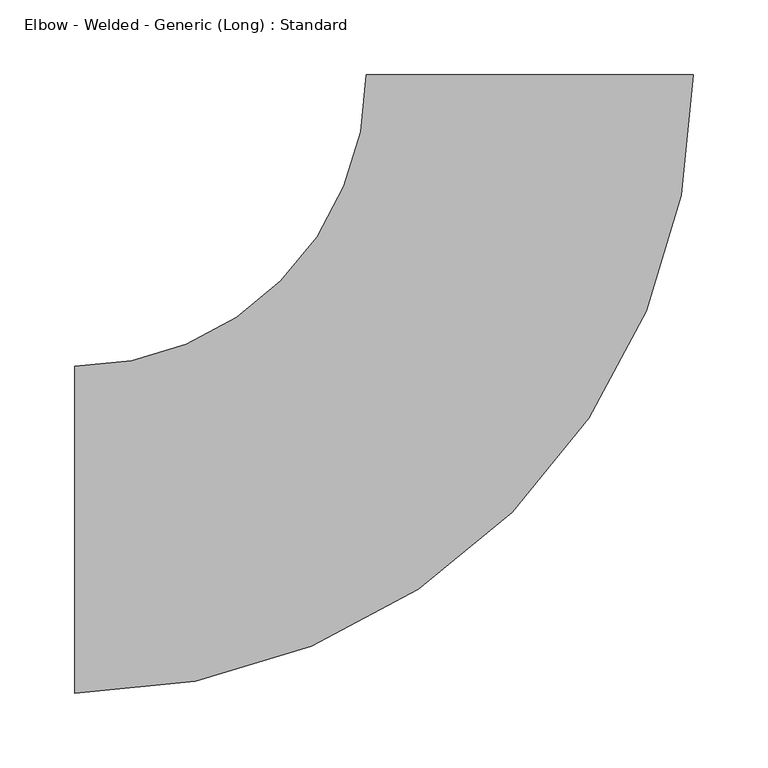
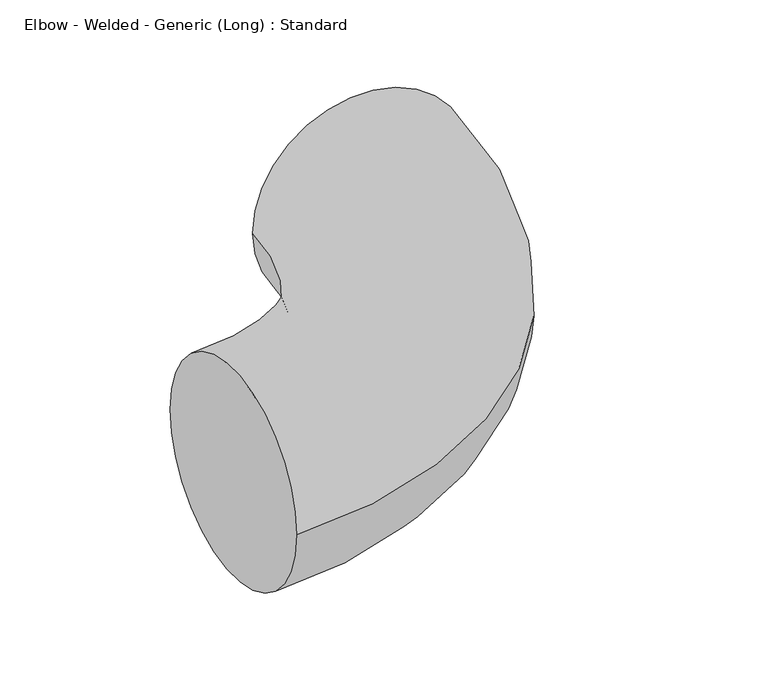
"""IFC4 building model written with IfcOpenShell, lengths in millimetres: pipe fitting geometry, Elbow - Welded - Generic (Long) : Standard."""

from ifc_helpers import new_model, si_unit, point, frame, origin, place, context, project, spatial, circle_curve, ellipse_curve, trimmed, source, transform, mapped, element, save
from ifc_brep_helpers import plane_surface, revolved_surface, advanced_brep


def elbow_welded_generic_long_standard_8e8c637a(model_context):
    return source(origin(), model_context, "Body", "AdvancedBrep", [
        advanced_brep(
        [(-304.8, -109.5375, 0.0), (-304.8, 109.5375, 0.0), (109.4899384, 304.8170882, 0.0), (-109.5850589, 304.7829043, 0.0)],
        [
            (0, 1, circle_curve(frame((-304.8, 0.0, 0.0), z_axis=(-1.0, 0.0, 0.0), x_axis=(0.0, 1.0, 0.0)), 109.5375)),
            (1, 0, circle_curve(frame((-304.8, 0.0, 0.0), z_axis=(-1.0, 0.0, 0.0), x_axis=(0.0, 1.0, 0.0)), 109.5375)),
            (2, 3, circle_curve(frame((-0.0475602, 304.7999963, 0.0), z_axis=(-0.00015603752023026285, 0.9999999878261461, 0.0), x_axis=(-0.9999999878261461, -0.00015603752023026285, 0.0)), 109.5375)),
            (3, 2, circle_curve(frame((-0.0475602, 304.7999963, 0.0), z_axis=(-0.00015603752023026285, 0.9999999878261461, 0.0), x_axis=(-0.9999999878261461, -0.00015603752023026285, 0.0)), 109.5375)),
            (3, 1, circle_curve(frame((-304.8, 304.7524435, 0.0), z_axis=(0.0, 0.0, -1.0), x_axis=(0.0, -1.0, 0.0)), 195.2149435)),
            (0, 2, circle_curve(frame((-304.8, 304.7524435, 0.0), z_axis=(0.0, 0.0, 1.0), x_axis=(0.0, -1.0, 0.0)), 414.2899435)),
        ],
        [
            plane_surface(frame((-304.8, 0.0, 0.0), z_axis=(-1.0, 0.0, 0.0), x_axis=(0.0, 0.0, 1.0))),
            plane_surface(frame((-0.0475602, 304.7999963, 0.0), z_axis=(-0.0001560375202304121, 0.9999999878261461, 0.0), x_axis=(0.0, 0.0, 1.0))),
            revolved_surface(trimmed(ellipse_curve(frame((-304.8, 0.0, 0.0), z_axis=(-1.0, 0.0, 0.0), x_axis=(0.0, 1.0, 0.0)), 109.5375, 109.5375), [point((-304.8, -109.5375, 0.0))], [point((-304.8, 109.5375, 0.0))], True, "CARTESIAN"), (-304.8, 304.7524435, 0.0), (0.0, 0.0, 1.0)),
            revolved_surface(trimmed(ellipse_curve(frame((-304.8, 0.0, 0.0), z_axis=(-1.0, 0.0, 0.0), x_axis=(0.0, 1.0, 0.0)), 109.5375, 109.5375), [point((-304.8, 109.5375, 0.0))], [point((-304.8, -109.5375, 0.0))], True, "CARTESIAN"), (-304.8, 304.7524435, 0.0), (0.0, 0.0, 1.0)),
        ],
        [
            (0, [[1, 2]]),
            (1, [[3, 4]]),
            (2, [[5, -1, 6, -4]]),
            (3, [[-6, -2, -5, -3]]),
        ],
    ),
    ])


if __name__ == "__main__":
    model = new_model("IFC4")
    model_context = context("Model", 3, world=origin())
    ifc_project = project(units=[si_unit("LENGTHUNIT", "METRE", prefix="MILLI")], contexts=[model_context])
    site = spatial("IfcSite", under=ifc_project)
    building = spatial("IfcBuilding", under=site)
    placement = place(None, origin())
    elbow_welded_generic_long_standard_shape = elbow_welded_generic_long_standard_8e8c637a(model_context)
    element("IfcPipeFitting", 1, ObjectType="Elbow - Welded - Generic (Long) : Standard", at=placement, inside=building, context=model_context, shape_type="MappedRepresentation", body=[
        mapped(elbow_welded_generic_long_standard_shape, transform((0.0, 0.0, 0.0), x_axis=(1.0, 0.0, 0.0), y_axis=(0.0, 1.0, 0.0), z_axis=(0.0, 0.0, 1.0))),
    ])
    save(model, "model.ifc")
